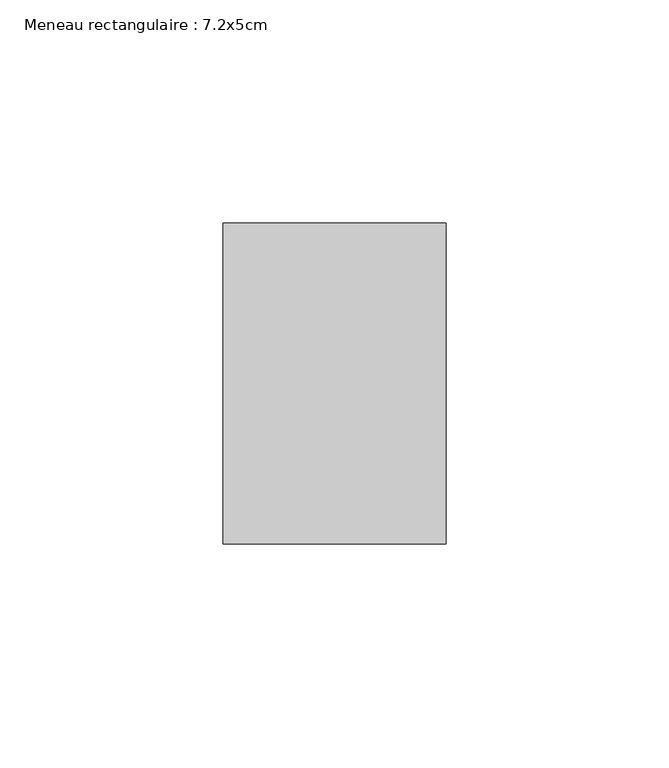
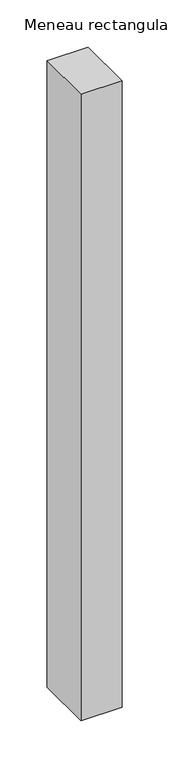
"""IFC4 building model written with IfcOpenShell, lengths in millimetres: member geometry, Meneau rectangulaire : 7.2x5cm."""

from ifc_helpers import new_model, si_unit, frame, origin, place, context, project, spatial, polyline, outline, extrude, source, transform, mapped, element, save


def meneau_rectangulaire_7_2x5cm_5221af52(model_context):
    return source(origin(), model_context, "Body", "SweptSolid", [
        extrude(outline(polyline([(25.0, 36.0), (25.0, -36.0), (-25.0, -36.0), (-25.0, 36.0), (25.0, 36.0)])), frame((0.0, 0.0, -810.0), z_axis=(0.0, 0.0, 1.0), x_axis=(1.0, 0.0, 0.0)), (0.0, 0.0, 1.0), 810.0),
    ])


if __name__ == "__main__":
    model = new_model("IFC4")
    model_context = context("Model", 3, world=origin())
    ifc_project = project(units=[si_unit("LENGTHUNIT", "METRE", prefix="MILLI")], contexts=[model_context])
    site = spatial("IfcSite", under=ifc_project)
    building = spatial("IfcBuilding", under=site)
    placement = place(None, origin())
    meneau_rectangulaire_7_2x5cm_shape = meneau_rectangulaire_7_2x5cm_5221af52(model_context)
    element("IfcMember", 1, ObjectType="Meneau rectangulaire : 7.2x5cm", at=placement, inside=building, context=model_context, shape_type="MappedRepresentation", body=[
        mapped(meneau_rectangulaire_7_2x5cm_shape, transform((0.0, 0.0, 0.0), x_axis=(1.0, 0.0, 0.0), y_axis=(0.0, 1.0, 0.0), z_axis=(0.0, 0.0, 1.0))),
    ])
    save(model, "model.ifc")
